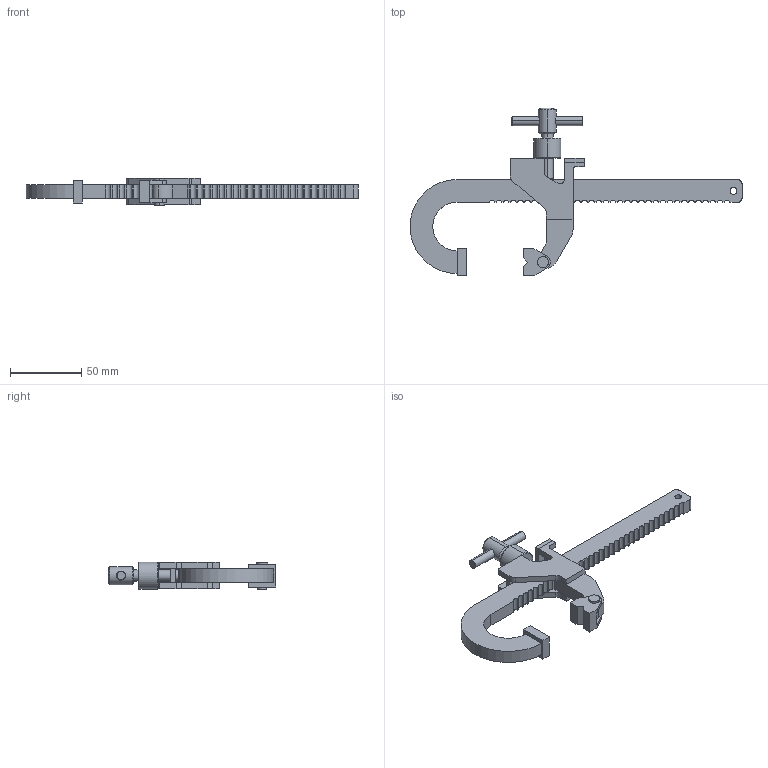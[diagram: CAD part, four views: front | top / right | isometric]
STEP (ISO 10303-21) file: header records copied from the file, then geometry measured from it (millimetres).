
FILE_DESCRIPTION (( 'STEP AP203' ), '1' );
FILE_NAME ('KFS 150.STEP', '2012-09-05T12:01:30', ( 'Ricardo' ), ( '' ), 'SwSTEP 2.0', 'SolidWorks 2012', '' );
FILE_SCHEMA (( 'CONFIG_CONTROL_DESIGN' ));
Length unit declared in the file: millimetre
Products named in the file (15): 16.20103; 16.20102; 15.20024; Subconjunto Base KFS-150; 15.10095; 15.10094; 15.10093_Esquerda; 15.10093_Direita; 15.10091; 05.20050; Subconjunto Haste KFS-150; 15.10092; 03.10019; KFS 150; 3670000073
Assembly tree (15 placements, depth 3):
  KFS 150
    Subconjunto Haste KFS-150
      03.10019
      15.10092
    Subconjunto Base KFS-150
      05.20050
      15.10091
      15.10093_Direita
      15.10093_Esquerda
      15.10094
      15.10095  x2
    15.20024
    16.20102
    16.20103
    3670000073
Bounding box: 233 x 117.5 x 19.59 mm (x, y, z)
Volume: 73371.8 mm3; surface area: 33339.6 mm2
Topology: 13 solids, 13 shells, 228 faces, 586 edges, 386 vertices
Faces by surface type: plane 126, cylinder 88, cone 14
Entity records: 8591 total; most frequent: CARTESIAN_POINT 1324, DIRECTION 1240, ORIENTED_EDGE 1148, EDGE_CURVE 574, AXIS2_PLACEMENT_3D 428, VECTOR 384, LINE 384, VERTEX_POINT 378
